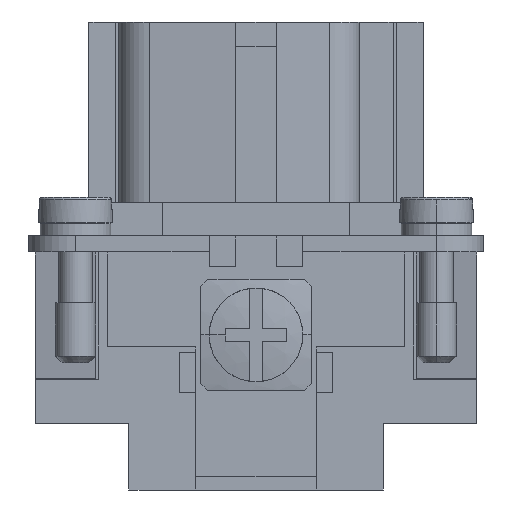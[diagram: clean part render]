
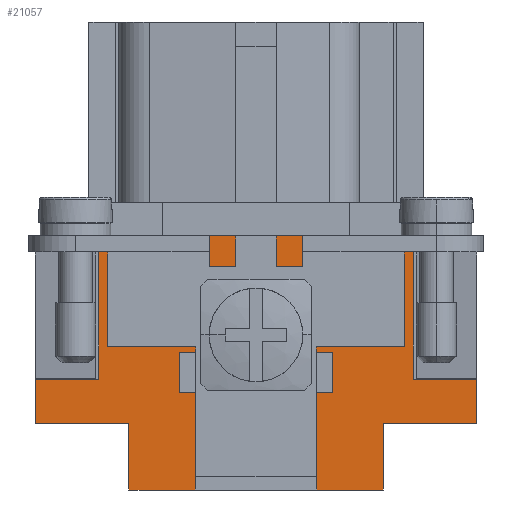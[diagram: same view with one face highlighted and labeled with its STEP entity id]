
A CAD part, left-side view. The second image highlights one B-rep face of the part: STEP entity #21057.
In plain terms, the highlighted planar face has unit normal (-1, 0, 0).
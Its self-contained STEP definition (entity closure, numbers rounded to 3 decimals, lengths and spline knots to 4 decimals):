
#80 = CARTESIAN_POINT ( 'NONE',  ( -1.2441, 0.1791, 0. ) ) ;
#849 = EDGE_CURVE ( 'NONE', #15576, #41010, #2519, .T. ) ;
#1269 = LINE ( 'NONE', #43555, #40491 ) ;
#1366 = CARTESIAN_POINT ( 'NONE',  ( -1.2441, 0.374, 0. ) ) ;
#2519 = LINE ( 'NONE', #13603, #40563 ) ;
#2871 = CARTESIAN_POINT ( 'NONE',  ( -1.2441, -0.6496, 0.1378 ) ) ;
#3176 = CARTESIAN_POINT ( 'NONE',  ( -1.2441, 0.6496, 0.3268 ) ) ;
#3520 = VECTOR ( 'NONE', #16951, 39.3701 ) ;
#3916 = CARTESIAN_POINT ( 'NONE',  ( -1.2441, 0.374, 0.1969 ) ) ;
#4949 = ORIENTED_EDGE ( 'NONE', *, *, #33635, .T. ) ;
#5074 = DIRECTION ( 'NONE',  ( 0., 0., -1. ) ) ;
#6646 = DIRECTION ( 'NONE',  ( 0., -1., 0. ) ) ;
#7407 = CARTESIAN_POINT ( 'NONE',  ( -1.2441, 0.5561, 0.3268 ) ) ;
#7560 = DIRECTION ( 'NONE',  ( 0., 0., -1. ) ) ;
#7690 = LINE ( 'NONE', #31503, #26133 ) ;
#8888 = EDGE_CURVE ( 'NONE', #44895, #10507, #44562, .T. ) ;
#9228 = VECTOR ( 'NONE', #7560, 39.3701 ) ;
#9563 = VERTEX_POINT ( 'NONE', #28058 ) ;
#10507 = VERTEX_POINT ( 'NONE', #21165 ) ;
#10805 = ORIENTED_EDGE ( 'NONE', *, *, #19343, .T. ) ;
#10976 = CARTESIAN_POINT ( 'NONE',  ( -1.2441, 0.1791, 0. ) ) ;
#11086 = ORIENTED_EDGE ( 'NONE', *, *, #32748, .T. ) ;
#11238 = DIRECTION ( 'NONE',  ( 0., 0., 1. ) ) ;
#11314 = EDGE_CURVE ( 'NONE', #17242, #43103, #20194, .T. ) ;
#11511 = CARTESIAN_POINT ( 'NONE',  ( -1.2441, -0.6496, 0.3268 ) ) ;
#12001 = VECTOR ( 'NONE', #25787, 39.3701 ) ;
#12237 = ORIENTED_EDGE ( 'NONE', *, *, #30006, .T. ) ;
#12768 = VERTEX_POINT ( 'NONE', #16258 ) ;
#13087 = AXIS2_PLACEMENT_3D ( 'NONE', #40556, #33319, #11238 ) ;
#13306 = CARTESIAN_POINT ( 'NONE',  ( -1.2441, -0.4626, 0. ) ) ;
#13603 = CARTESIAN_POINT ( 'NONE',  ( -1.2441, 0.6496, 0. ) ) ;
#14111 = LINE ( 'NONE', #47049, #22747 ) ;
#14148 = ORIENTED_EDGE ( 'NONE', *, *, #11314, .T. ) ;
#14303 = CARTESIAN_POINT ( 'NONE',  ( -1.2441, 0.6496, 0.1969 ) ) ;
#14507 = VECTOR ( 'NONE', #24221, 39.3701 ) ;
#14700 = ORIENTED_EDGE ( 'NONE', *, *, #849, .F. ) ;
#15576 = VERTEX_POINT ( 'NONE', #14303 ) ;
#15972 = VERTEX_POINT ( 'NONE', #42737 ) ;
#16258 = CARTESIAN_POINT ( 'NONE',  ( -1.2441, -0.4626, 0.748 ) ) ;
#16951 = DIRECTION ( 'NONE',  ( 0., 0., -1. ) ) ;
#17243 = EDGE_CURVE ( 'NONE', #9563, #15972, #37327, .T. ) ;
#17242 = VERTEX_POINT ( 'NONE', #33746 ) ;
#17688 = VECTOR ( 'NONE', #41147, 39.3701 ) ;
#19343 = EDGE_CURVE ( 'NONE', #43103, #43726, #43473, .T. ) ;
#19584 = ORIENTED_EDGE ( 'NONE', *, *, #41569, .T. ) ;
#19594 = VERTEX_POINT ( 'NONE', #42362 ) ;
#19712 = EDGE_CURVE ( 'NONE', #10507, #24272, #7690, .T. ) ;
#20194 = LINE ( 'NONE', #33341, #9228 ) ;
#20818 = ORIENTED_EDGE ( 'NONE', *, *, #28365, .T. ) ;
#20894 = VERTEX_POINT ( 'NONE', #32018 ) ;
#21057 = ADVANCED_FACE ( 'NONE', ( #42238 ), #29589, .T. ) ;
#21165 = CARTESIAN_POINT ( 'NONE',  ( -1.2441, 0.374, 0. ) ) ;
#21430 = CARTESIAN_POINT ( 'NONE',  ( -1.2441, 0.4626, 0.748 ) ) ;
#21493 = DIRECTION ( 'NONE',  ( 0., 1., 0. ) ) ;
#21813 = LINE ( 'NONE', #10976, #12001 ) ;
#21855 = CARTESIAN_POINT ( 'NONE',  ( -1.2441, -0.1791, 0. ) ) ;
#22116 = CARTESIAN_POINT ( 'NONE',  ( -1.2441, -0.374, 0. ) ) ;
#22747 = VECTOR ( 'NONE', #43400, 39.3701 ) ;
#22906 = VERTEX_POINT ( 'NONE', #34055 ) ;
#23145 = LINE ( 'NONE', #39017, #3520 ) ;
#23710 = VERTEX_POINT ( 'NONE', #21430 ) ;
#23768 = ORIENTED_EDGE ( 'NONE', *, *, #25126, .F. ) ;
#23968 = EDGE_CURVE ( 'NONE', #20894, #22906, #35349, .T. ) ;
#24221 = DIRECTION ( 'NONE',  ( 0., 0., 1. ) ) ;
#24272 = VERTEX_POINT ( 'NONE', #80 ) ;
#24512 = LINE ( 'NONE', #2871, #33171 ) ;
#24942 = VECTOR ( 'NONE', #5074, 39.3701 ) ;
#25126 = EDGE_CURVE ( 'NONE', #41010, #19594, #39274, .T. ) ;
#25429 = LINE ( 'NONE', #13306, #14507 ) ;
#25787 = DIRECTION ( 'NONE',  ( 0., 0., 1. ) ) ;
#25820 = ORIENTED_EDGE ( 'NONE', *, *, #46767, .F. ) ;
#26133 = VECTOR ( 'NONE', #35210, 39.3701 ) ;
#28058 = CARTESIAN_POINT ( 'NONE',  ( -1.2441, -0.6496, 0.3268 ) ) ;
#28365 = EDGE_CURVE ( 'NONE', #24272, #38042, #21813, .T. ) ;
#28719 = CARTESIAN_POINT ( 'NONE',  ( -1.2441, -0.6496, 0.1969 ) ) ;
#29219 = ORIENTED_EDGE ( 'NONE', *, *, #17243, .T. ) ;
#29477 = VECTOR ( 'NONE', #36900, 39.3701 ) ;
#29589 = PLANE ( 'NONE',  #13087 ) ;
#29974 = ORIENTED_EDGE ( 'NONE', *, *, #19712, .T. ) ;
#30006 = EDGE_CURVE ( 'NONE', #15576, #44895, #47115, .T. ) ;
#30991 = ORIENTED_EDGE ( 'NONE', *, *, #46760, .T. ) ;
#31356 = VECTOR ( 'NONE', #42567, 39.3701 ) ;
#31503 = CARTESIAN_POINT ( 'NONE',  ( -1.2441, -0.6496, 0. ) ) ;
#32018 = CARTESIAN_POINT ( 'NONE',  ( -1.2441, -0.374, 0.1969 ) ) ;
#32748 = EDGE_CURVE ( 'NONE', #38042, #17242, #24512, .T. ) ;
#33171 = VECTOR ( 'NONE', #39590, 39.3701 ) ;
#33227 = ORIENTED_EDGE ( 'NONE', *, *, #23968, .T. ) ;
#33319 = DIRECTION ( 'NONE',  ( -1., 0., 0. ) ) ;
#33341 = CARTESIAN_POINT ( 'NONE',  ( -1.2441, -0.1791, 0. ) ) ;
#33635 = EDGE_CURVE ( 'NONE', #43726, #20894, #41170, .T. ) ;
#33746 = CARTESIAN_POINT ( 'NONE',  ( -1.2441, -0.1791, 0.1378 ) ) ;
#33953 = DIRECTION ( 'NONE',  ( 0., -1., 0. ) ) ;
#34055 = CARTESIAN_POINT ( 'NONE',  ( -1.2441, -0.6496, 0.1969 ) ) ;
#35154 = CARTESIAN_POINT ( 'NONE',  ( -1.2441, -0.374, 0. ) ) ;
#35210 = DIRECTION ( 'NONE',  ( 0., -1., 0. ) ) ;
#35349 = LINE ( 'NONE', #37664, #45177 ) ;
#36701 = EDGE_LOOP ( 'NONE', ( #25820, #29219, #30991, #40639, #19584, #23768, #14700, #12237, #43767, #29974, #20818, #11086, #14148, #10805, #4949, #33227 ) ) ;
#36900 = DIRECTION ( 'NONE',  ( 0., -1., 0. ) ) ;
#37327 = LINE ( 'NONE', #11511, #17688 ) ;
#37664 = CARTESIAN_POINT ( 'NONE',  ( -1.2441, -0.6496, 0.1969 ) ) ;
#38042 = VERTEX_POINT ( 'NONE', #38557 ) ;
#38557 = CARTESIAN_POINT ( 'NONE',  ( -1.2441, 0.1791, 0.1378 ) ) ;
#39017 = CARTESIAN_POINT ( 'NONE',  ( -1.2441, -0.6496, 0. ) ) ;
#39274 = LINE ( 'NONE', #7407, #29477 ) ;
#39590 = DIRECTION ( 'NONE',  ( 0., -1., 0. ) ) ;
#39663 = VECTOR ( 'NONE', #6646, 39.3701 ) ;
#39793 = CARTESIAN_POINT ( 'NONE',  ( -1.2441, -0.6496, 0. ) ) ;
#40491 = VECTOR ( 'NONE', #21493, 39.3701 ) ;
#40556 = CARTESIAN_POINT ( 'NONE',  ( -1.2441, -0.6496, 0. ) ) ;
#40563 = VECTOR ( 'NONE', #43773, 39.3701 ) ;
#40639 = ORIENTED_EDGE ( 'NONE', *, *, #45192, .T. ) ;
#41010 = VERTEX_POINT ( 'NONE', #3176 ) ;
#41147 = DIRECTION ( 'NONE',  ( 0., 1., 0. ) ) ;
#41170 = LINE ( 'NONE', #35154, #31356 ) ;
#41569 = EDGE_CURVE ( 'NONE', #23710, #19594, #14111, .T. ) ;
#42238 = FACE_OUTER_BOUND ( 'NONE', #36701, .T. ) ;
#42362 = CARTESIAN_POINT ( 'NONE',  ( -1.2441, 0.4626, 0.3268 ) ) ;
#42567 = DIRECTION ( 'NONE',  ( 0., 0., 1. ) ) ;
#42737 = CARTESIAN_POINT ( 'NONE',  ( -1.2441, -0.4626, 0.3268 ) ) ;
#43103 = VERTEX_POINT ( 'NONE', #21855 ) ;
#43400 = DIRECTION ( 'NONE',  ( 0., 0., -1. ) ) ;
#43473 = LINE ( 'NONE', #39793, #44632 ) ;
#43516 = DIRECTION ( 'NONE',  ( 0., -1., 0. ) ) ;
#43555 = CARTESIAN_POINT ( 'NONE',  ( -1.2441, -0.6496, 0.748 ) ) ;
#43726 = VERTEX_POINT ( 'NONE', #22116 ) ;
#43767 = ORIENTED_EDGE ( 'NONE', *, *, #8888, .T. ) ;
#43773 = DIRECTION ( 'NONE',  ( 0., 0., 1. ) ) ;
#44562 = LINE ( 'NONE', #1366, #24942 ) ;
#44632 = VECTOR ( 'NONE', #43516, 39.3701 ) ;
#44895 = VERTEX_POINT ( 'NONE', #3916 ) ;
#45177 = VECTOR ( 'NONE', #33953, 39.3701 ) ;
#45192 = EDGE_CURVE ( 'NONE', #12768, #23710, #1269, .T. ) ;
#46760 = EDGE_CURVE ( 'NONE', #15972, #12768, #25429, .T. ) ;
#46767 = EDGE_CURVE ( 'NONE', #9563, #22906, #23145, .T. ) ;
#47049 = CARTESIAN_POINT ( 'NONE',  ( -1.2441, 0.4626, 0.748 ) ) ;
#47115 = LINE ( 'NONE', #28719, #39663 ) ;
